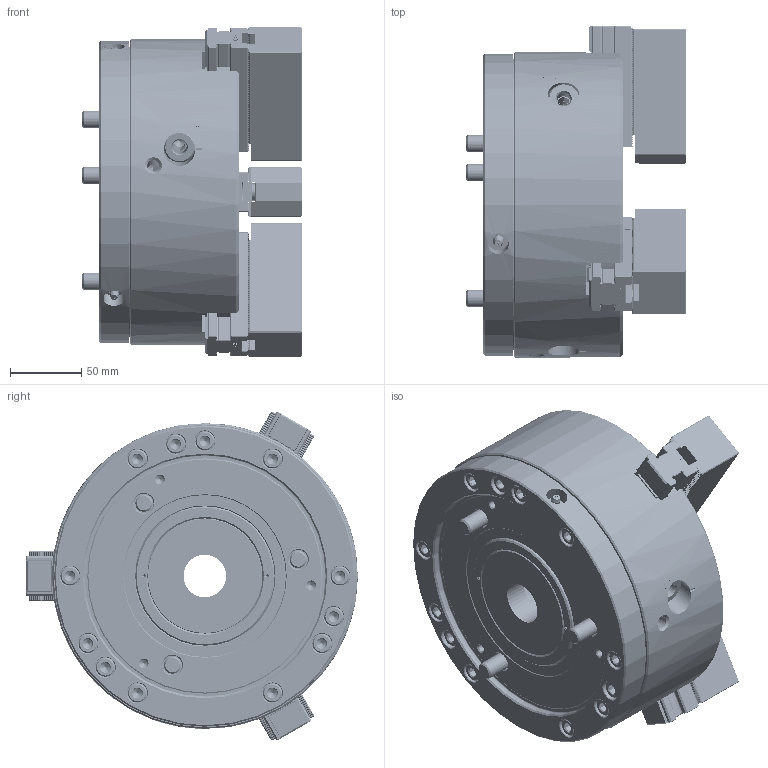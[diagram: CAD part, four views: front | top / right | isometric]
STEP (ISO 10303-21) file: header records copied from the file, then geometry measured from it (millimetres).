
FILE_DESCRIPTION (( 'STEP AP214' ), '1' );
FILE_NAME ('QJR08_61P261581-3_OC.STEP', '2026-03-12T05:11:31', ( '' ), ( '' ), 'SwSTEP 2.0', 'SolidWorks 2022', '' );
FILE_SCHEMA (( 'AUTOMOTIVE_DESIGN' ));
Length unit declared in the file: millimetre
Products named in the file (8): Copy (2) of 0030112035^DT1_QJR08; DT1_QJR08_SOFTJAW^DT1_QJR08; Copy of 0030112035^DT1_QJR08; QJR08_61P261581-3_OC; DT1_QJR08_BASEJAW^DT1_QJR08; DT1_QJR08_M12x95^DT1_QJR08; DT1_QJR08_BASE^DT1_QJR08; DT1_QJR08_DRAWNUT^DT1_QJR08
Assembly tree (17 placements, depth 2):
  QJR08_61P261581-3_OC
    DT1_QJR08_DRAWNUT^DT1_QJR08
    DT1_QJR08_SOFTJAW^DT1_QJR08  x3
    DT1_QJR08_M12x95^DT1_QJR08  x3
    DT1_QJR08_BASEJAW^DT1_QJR08  x3
    DT1_QJR08_BASE^DT1_QJR08
    Copy of 0030112035^DT1_QJR08  x3
    Copy (2) of 0030112035^DT1_QJR08  x3
Bounding box: 154.45 x 233.14 x 231.49 mm (x, y, z)
Volume: 3442263.1 mm3; surface area: 392713.1 mm2
Topology: 17 solids, 104 shells, 9631 faces, 26503 edges, 17355 vertices
Faces by surface type: plane 5512, cylinder 1994, bspline 1406, cone 592, torus 115, sphere 12
Entity records: 256454 total; most frequent: CARTESIAN_POINT 112172, ORIENTED_EDGE 32926, DIRECTION 24712, EDGE_CURVE 16463, VERTEX_POINT 10797, LINE 10460, VECTOR 10460, AXIS2_PLACEMENT_3D 7126
